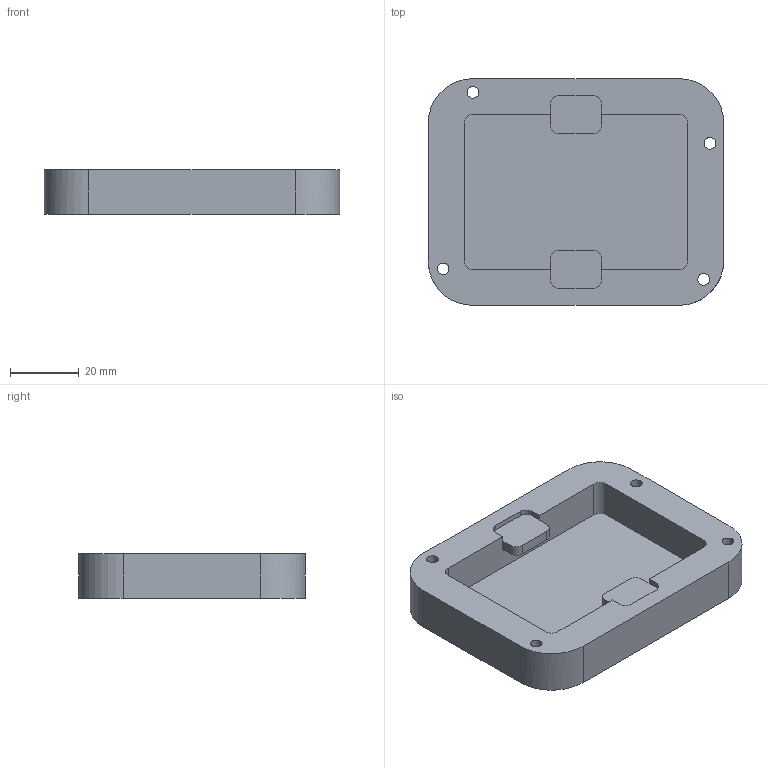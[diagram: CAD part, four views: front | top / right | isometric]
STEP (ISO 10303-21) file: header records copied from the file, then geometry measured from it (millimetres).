
FILE_DESCRIPTION(('Open CASCADE Model'),'2;1');
FILE_NAME('Open CASCADE Shape Model','2026-09-20T04:40:22',('Author'),( 'Open CASCADE'),'Open CASCADE STEP processor 8.0','Open CASCADE 8.0' ,'Unknown');
FILE_SCHEMA(('AP242_MANAGED_MODEL_BASED_3D_ENGINEERING_MIM_LF {1 0 10303 442 1 1 4 }' ));
Length unit declared in the file: millimetre
Products named in the file (1): Open CASCADE STEP translator 8.0 1
Bounding box: 86 x 66 x 13 mm (x, y, z)
Volume: 39035 mm3; surface area: 18109.6 mm2
Topology: 1 solids, 1 shells, 55 faces, 143 edges, 95 vertices
Faces by surface type: plane 31, cylinder 24
Full cylindrical faces by diameter (mm): 3.4 x4, 6.2 x4
Entity records: 3620 total; most frequent: CARTESIAN_POINT 652, DIRECTION 579, LINE 329, VECTOR 329, ORIENTED_EDGE 286, PCURVE 286, DEFINITIONAL_REPRESENTATION 286, EDGE_CURVE 143
